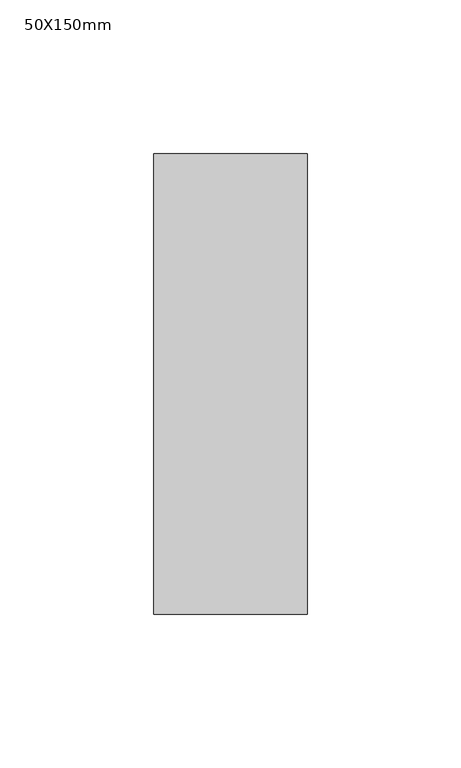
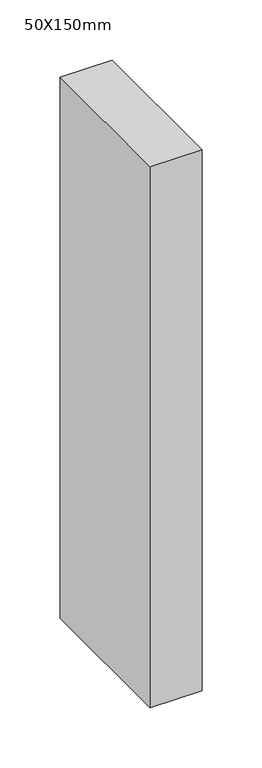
"""IFC4 building model written with IfcOpenShell, lengths in millimetres: member geometry, 矩形竖梃 : 50X150mm."""

from ifc_helpers import new_model, si_unit, frame, origin, place, context, project, spatial, polyline, outline, extrude, source, transform, mapped, element, save


def member_50x150mm_b8dbbb25(model_context):
    return source(origin(), model_context, "Body", "SweptSolid", [
        extrude(outline(polyline([(25.0, 75.0), (25.0, -75.0), (-25.0, -75.0), (-25.0, 75.0), (25.0, 75.0)])), frame((0.0, 0.0, -550.0), z_axis=(0.0, 0.0, 1.0), x_axis=(1.0, 0.0, 0.0)), (0.0, 0.0, 1.0), 550.0),
    ])


if __name__ == "__main__":
    model = new_model("IFC4")
    model_context = context("Model", 3, world=origin())
    ifc_project = project(units=[si_unit("LENGTHUNIT", "METRE", prefix="MILLI")], contexts=[model_context])
    site = spatial("IfcSite", under=ifc_project)
    building = spatial("IfcBuilding", under=site)
    placement = place(None, origin())
    member_50x150mm_shape = member_50x150mm_b8dbbb25(model_context)
    element("IfcMember", 1, ObjectType="矩形竖梃 : 50X150mm", at=placement, inside=building, context=model_context, shape_type="MappedRepresentation", body=[
        mapped(member_50x150mm_shape, transform((0.0, 0.0, 0.0), x_axis=(1.0, 0.0, 0.0), y_axis=(0.0, 1.0, 0.0), z_axis=(0.0, 0.0, 1.0))),
    ])
    save(model, "model.ifc")
